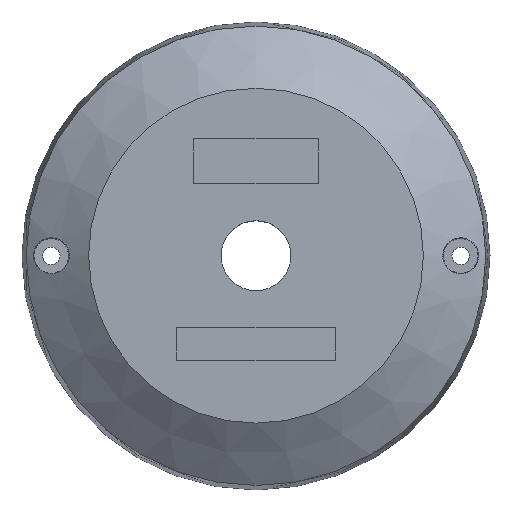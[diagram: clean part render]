
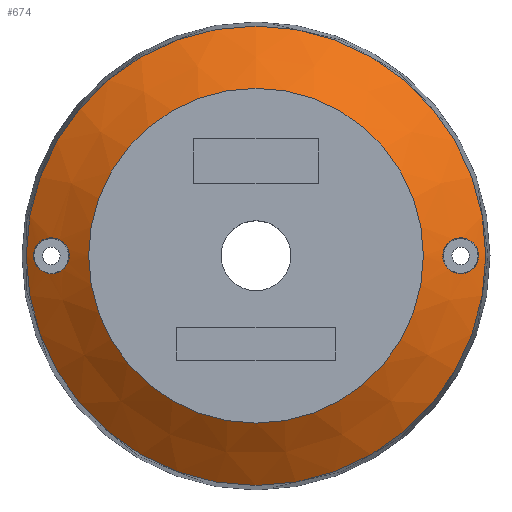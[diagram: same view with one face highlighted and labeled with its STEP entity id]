
A CAD part, top view. The second image highlights one B-rep face of the part: STEP entity #674.
In plain terms, the highlighted conical face has half-angle 55 degrees and reference radius 61.5 mm.
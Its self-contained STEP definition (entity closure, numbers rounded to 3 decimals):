
#25=CONICAL_SURFACE('',#763,61.5,0.96);
#35=LINE('',#1325,#74);
#74=VECTOR('',#889,61.5);
#128=B_SPLINE_CURVE_WITH_KNOTS('',3,(#1331,#1332,#1333,#1334,#1335,#1336,
#1337,#1338,#1339,#1340),.UNSPECIFIED.,.F.,.F.,(4,2,2,2,4),(2.461,
2.669,2.876,3.11,3.344),
 .UNSPECIFIED.);
#129=B_SPLINE_CURVE_WITH_KNOTS('',3,(#1341,#1342,#1343,#1344,#1345,#1346,
#1347,#1348,#1349,#1350,#1351,#1352,#1353,#1354,#1355,#1356,#1357,#1358,
#1359,#1360,#1361,#1362,#1363,#1364,#1365,#1366),.UNSPECIFIED.,.F.,.F.,
(4,2,2,2,2,2,2,2,2,2,2,2,4),(0.,0.219,0.439,0.614,
0.789,0.964,1.139,1.358,1.578,
1.811,2.045,2.253,2.461),
 .UNSPECIFIED.);
#130=B_SPLINE_CURVE_WITH_KNOTS('',3,(#1369,#1370,#1371,#1372,#1373,#1374,
#1375,#1376,#1377,#1378,#1379,#1380,#1381,#1382,#1383,#1384,#1385,#1386,
#1387,#1388,#1389,#1390,#1391,#1392,#1393,#1394),.UNSPECIFIED.,.F.,.F.,
(4,2,2,2,2,2,2,2,2,2,2,2,4),(0.789,0.964,1.139,
1.358,1.578,1.811,2.045,2.253,
2.461,2.669,2.876,3.11,3.344),
 .UNSPECIFIED.);
#131=B_SPLINE_CURVE_WITH_KNOTS('',3,(#1395,#1396,#1397,#1398,#1399,#1400,
#1401,#1402,#1403,#1404),.UNSPECIFIED.,.F.,.F.,(4,2,2,2,4),(0.,0.219,
0.439,0.614,0.789),.UNSPECIFIED.);
#150=FACE_BOUND('',#214,.T.);
#151=FACE_BOUND('',#215,.T.);
#167=FACE_OUTER_BOUND('',#213,.T.);
#213=EDGE_LOOP('',(#518,#519,#520,#521,#522,#523));
#214=EDGE_LOOP('',(#524,#525));
#215=EDGE_LOOP('',(#526,#527));
#275=CIRCLE('',#764,46.5);
#276=CIRCLE('',#765,46.5);
#277=CIRCLE('',#766,63.817);
#278=CIRCLE('',#767,63.817);
#323=VERTEX_POINT('',#1320);
#324=VERTEX_POINT('',#1321);
#325=VERTEX_POINT('',#1324);
#326=VERTEX_POINT('',#1326);
#327=VERTEX_POINT('',#1329);
#328=VERTEX_POINT('',#1330);
#329=VERTEX_POINT('',#1367);
#330=VERTEX_POINT('',#1368);
#404=EDGE_CURVE('',#323,#324,#275,.T.);
#405=EDGE_CURVE('',#324,#323,#276,.T.);
#406=EDGE_CURVE('',#324,#325,#35,.T.);
#407=EDGE_CURVE('',#326,#325,#277,.T.);
#408=EDGE_CURVE('',#325,#326,#278,.T.);
#409=EDGE_CURVE('',#327,#328,#128,.F.);
#410=EDGE_CURVE('',#328,#327,#129,.F.);
#411=EDGE_CURVE('',#329,#330,#130,.F.);
#412=EDGE_CURVE('',#330,#329,#131,.F.);
#518=ORIENTED_EDGE('',*,*,#404,.F.);
#519=ORIENTED_EDGE('',*,*,#405,.F.);
#520=ORIENTED_EDGE('',*,*,#406,.T.);
#521=ORIENTED_EDGE('',*,*,#407,.F.);
#522=ORIENTED_EDGE('',*,*,#408,.F.);
#523=ORIENTED_EDGE('',*,*,#406,.F.);
#524=ORIENTED_EDGE('',*,*,#409,.T.);
#525=ORIENTED_EDGE('',*,*,#410,.T.);
#526=ORIENTED_EDGE('',*,*,#411,.T.);
#527=ORIENTED_EDGE('',*,*,#412,.T.);
#674=ADVANCED_FACE('',(#167,#150,#151),#25,.T.);
#763=AXIS2_PLACEMENT_3D('',#1319,#883,#884);
#764=AXIS2_PLACEMENT_3D('',#1322,#885,#886);
#765=AXIS2_PLACEMENT_3D('',#1323,#887,#888);
#766=AXIS2_PLACEMENT_3D('',#1327,#890,#891);
#767=AXIS2_PLACEMENT_3D('',#1328,#892,#893);
#883=DIRECTION('center_axis',(0.,0.,-1.));
#884=DIRECTION('ref_axis',(0.,-1.,0.));
#885=DIRECTION('center_axis',(0.,0.,1.));
#886=DIRECTION('ref_axis',(0.,-1.,0.));
#887=DIRECTION('center_axis',(0.,0.,1.));
#888=DIRECTION('ref_axis',(0.,-1.,0.));
#889=DIRECTION('',(0.,0.819,-0.574));
#890=DIRECTION('center_axis',(0.,0.,-1.));
#891=DIRECTION('ref_axis',(-1.,0.,0.));
#892=DIRECTION('center_axis',(0.,0.,-1.));
#893=DIRECTION('ref_axis',(-1.,0.,0.));
#1319=CARTESIAN_POINT('Origin',(0.,0.,35.497));
#1320=CARTESIAN_POINT('',(0.,-46.5,46.));
#1321=CARTESIAN_POINT('',(0.,46.5,46.));
#1322=CARTESIAN_POINT('Origin',(0.,0.,46.));
#1323=CARTESIAN_POINT('Origin',(0.,0.,46.));
#1324=CARTESIAN_POINT('',(0.,63.817,33.874));
#1325=CARTESIAN_POINT('',(0.,61.5,35.497));
#1326=CARTESIAN_POINT('',(63.817,0.,33.874));
#1327=CARTESIAN_POINT('Origin',(0.,0.,33.874));
#1328=CARTESIAN_POINT('Origin',(0.,0.,33.874));
#1329=CARTESIAN_POINT('',(56.409,4.962,38.909));
#1330=CARTESIAN_POINT('',(61.827,0.,35.268));
#1331=CARTESIAN_POINT('Ctrl Pts',(61.827,0.,
35.268));
#1332=CARTESIAN_POINT('Ctrl Pts',(61.827,0.693,35.268));
#1333=CARTESIAN_POINT('Ctrl Pts',(61.674,1.413,35.366));
#1334=CARTESIAN_POINT('Ctrl Pts',(61.096,2.692,35.741));
#1335=CARTESIAN_POINT('Ctrl Pts',(60.672,3.25,36.017));
#1336=CARTESIAN_POINT('Ctrl Pts',(59.696,4.144,36.661));
#1337=CARTESIAN_POINT('Ctrl Pts',(59.066,4.513,37.081));
#1338=CARTESIAN_POINT('Ctrl Pts',(57.74,4.95,37.982));
#1339=CARTESIAN_POINT('Ctrl Pts',(57.044,5.018,38.463));
#1340=CARTESIAN_POINT('Ctrl Pts',(56.409,4.962,38.909));
#1341=CARTESIAN_POINT('Ctrl Pts',(56.409,4.962,38.909));
#1342=CARTESIAN_POINT('Ctrl Pts',(55.812,4.91,39.329));
#1343=CARTESIAN_POINT('Ctrl Pts',(55.177,4.74,39.782));
#1344=CARTESIAN_POINT('Ctrl Pts',(54.005,4.145,40.634));
#1345=CARTESIAN_POINT('Ctrl Pts',(53.468,3.721,41.032));
#1346=CARTESIAN_POINT('Ctrl Pts',(52.703,2.817,41.605));
#1347=CARTESIAN_POINT('Ctrl Pts',(52.393,2.313,41.84));
#1348=CARTESIAN_POINT('Ctrl Pts',(51.972,1.197,42.161));
#1349=CARTESIAN_POINT('Ctrl Pts',(51.863,0.583,42.245));
#1350=CARTESIAN_POINT('Ctrl Pts',(51.863,-0.583,42.245));
#1351=CARTESIAN_POINT('Ctrl Pts',(51.972,-1.197,42.161));
#1352=CARTESIAN_POINT('Ctrl Pts',(52.393,-2.313,41.84));
#1353=CARTESIAN_POINT('Ctrl Pts',(52.703,-2.817,41.605));
#1354=CARTESIAN_POINT('Ctrl Pts',(53.468,-3.721,41.032));
#1355=CARTESIAN_POINT('Ctrl Pts',(54.005,-4.145,40.634));
#1356=CARTESIAN_POINT('Ctrl Pts',(55.177,-4.74,39.782));
#1357=CARTESIAN_POINT('Ctrl Pts',(55.812,-4.91,39.329));
#1358=CARTESIAN_POINT('Ctrl Pts',(57.044,-5.018,38.463));
#1359=CARTESIAN_POINT('Ctrl Pts',(57.74,-4.95,37.982));
#1360=CARTESIAN_POINT('Ctrl Pts',(59.066,-4.513,37.081));
#1361=CARTESIAN_POINT('Ctrl Pts',(59.696,-4.144,36.661));
#1362=CARTESIAN_POINT('Ctrl Pts',(60.672,-3.25,36.017));
#1363=CARTESIAN_POINT('Ctrl Pts',(61.096,-2.692,35.741));
#1364=CARTESIAN_POINT('Ctrl Pts',(61.674,-1.413,35.366));
#1365=CARTESIAN_POINT('Ctrl Pts',(61.827,-0.693,35.268));
#1366=CARTESIAN_POINT('Ctrl Pts',(61.827,0.,
35.268));
#1367=CARTESIAN_POINT('',(-56.409,-4.962,38.909));
#1368=CARTESIAN_POINT('',(-51.863,0.,42.245));
#1369=CARTESIAN_POINT('Ctrl Pts',(-51.863,0.,
42.245));
#1370=CARTESIAN_POINT('Ctrl Pts',(-51.863,0.583,42.245));
#1371=CARTESIAN_POINT('Ctrl Pts',(-51.972,1.197,42.161));
#1372=CARTESIAN_POINT('Ctrl Pts',(-52.393,2.313,41.84));
#1373=CARTESIAN_POINT('Ctrl Pts',(-52.703,2.817,41.605));
#1374=CARTESIAN_POINT('Ctrl Pts',(-53.468,3.721,41.032));
#1375=CARTESIAN_POINT('Ctrl Pts',(-54.005,4.145,40.634));
#1376=CARTESIAN_POINT('Ctrl Pts',(-55.177,4.74,39.782));
#1377=CARTESIAN_POINT('Ctrl Pts',(-55.812,4.91,39.329));
#1378=CARTESIAN_POINT('Ctrl Pts',(-57.044,5.018,38.463));
#1379=CARTESIAN_POINT('Ctrl Pts',(-57.74,4.95,37.982));
#1380=CARTESIAN_POINT('Ctrl Pts',(-59.066,4.513,37.081));
#1381=CARTESIAN_POINT('Ctrl Pts',(-59.696,4.144,36.661));
#1382=CARTESIAN_POINT('Ctrl Pts',(-60.672,3.25,36.017));
#1383=CARTESIAN_POINT('Ctrl Pts',(-61.096,2.692,35.741));
#1384=CARTESIAN_POINT('Ctrl Pts',(-61.674,1.413,35.366));
#1385=CARTESIAN_POINT('Ctrl Pts',(-61.827,0.693,35.268));
#1386=CARTESIAN_POINT('Ctrl Pts',(-61.827,-0.693,
35.268));
#1387=CARTESIAN_POINT('Ctrl Pts',(-61.674,-1.413,35.366));
#1388=CARTESIAN_POINT('Ctrl Pts',(-61.096,-2.692,35.741));
#1389=CARTESIAN_POINT('Ctrl Pts',(-60.672,-3.25,36.017));
#1390=CARTESIAN_POINT('Ctrl Pts',(-59.696,-4.144,36.661));
#1391=CARTESIAN_POINT('Ctrl Pts',(-59.066,-4.513,37.081));
#1392=CARTESIAN_POINT('Ctrl Pts',(-57.74,-4.95,37.982));
#1393=CARTESIAN_POINT('Ctrl Pts',(-57.044,-5.018,38.463));
#1394=CARTESIAN_POINT('Ctrl Pts',(-56.409,-4.962,38.909));
#1395=CARTESIAN_POINT('Ctrl Pts',(-56.409,-4.962,38.909));
#1396=CARTESIAN_POINT('Ctrl Pts',(-55.812,-4.91,39.329));
#1397=CARTESIAN_POINT('Ctrl Pts',(-55.177,-4.74,39.782));
#1398=CARTESIAN_POINT('Ctrl Pts',(-54.005,-4.145,40.634));
#1399=CARTESIAN_POINT('Ctrl Pts',(-53.468,-3.721,41.032));
#1400=CARTESIAN_POINT('Ctrl Pts',(-52.703,-2.817,41.605));
#1401=CARTESIAN_POINT('Ctrl Pts',(-52.393,-2.313,41.84));
#1402=CARTESIAN_POINT('Ctrl Pts',(-51.972,-1.197,42.161));
#1403=CARTESIAN_POINT('Ctrl Pts',(-51.863,-0.583,
42.245));
#1404=CARTESIAN_POINT('Ctrl Pts',(-51.863,0.,
42.245));
